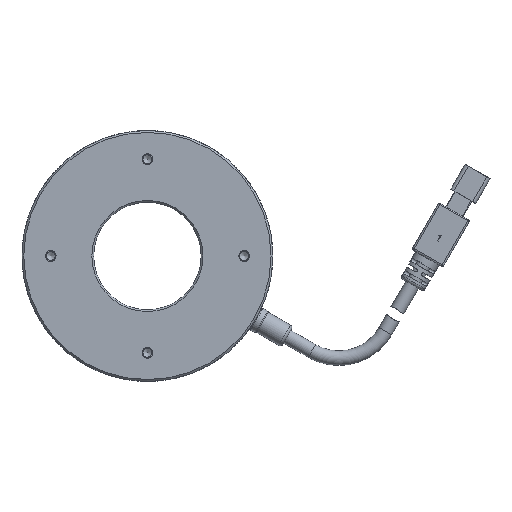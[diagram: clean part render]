
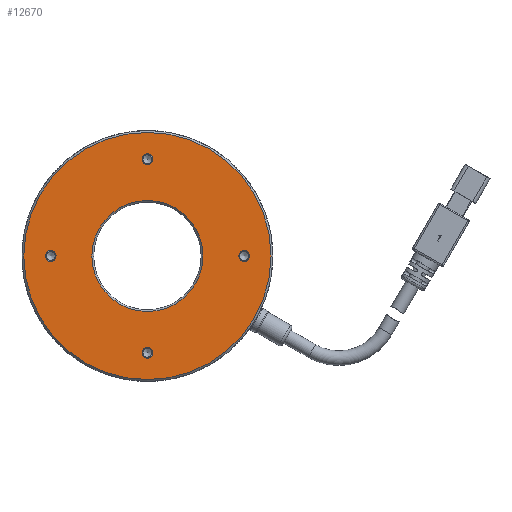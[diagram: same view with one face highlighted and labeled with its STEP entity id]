
A CAD part, front view. The second image highlights one B-rep face of the part: STEP entity #12670.
In plain terms, the highlighted planar face has unit normal (0, -1, 0).
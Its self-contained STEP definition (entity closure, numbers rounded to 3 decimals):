
#110 = FACE_BOUND ( 'NONE', #22763, .T. ) ;
#1093 = PLANE ( 'NONE',  #7536 ) ;
#1431 = DIRECTION ( 'NONE',  ( 0., 0., -1. ) ) ;
#1442 = ORIENTED_EDGE ( 'NONE', *, *, #21462, .F. ) ;
#2401 = DIRECTION ( 'NONE',  ( 0., 0., 1. ) ) ;
#2560 = DIRECTION ( 'NONE',  ( 0., -1., 0. ) ) ;
#2864 = CIRCLE ( 'NONE', #21710, 34.5 ) ;
#3384 = EDGE_LOOP ( 'NONE', ( #18166 ) ) ;
#3844 = CARTESIAN_POINT ( 'NONE',  ( 0., 37.181, 34.5 ) ) ;
#3853 = FACE_OUTER_BOUND ( 'NONE', #3384, .T. ) ;
#4115 = EDGE_CURVE ( 'NONE', #12719, #12719, #2864, .T. ) ;
#4181 = CARTESIAN_POINT ( 'NONE',  ( 0., 37.181, -27. ) ) ;
#4212 = EDGE_CURVE ( 'NONE', #11554, #11554, #23853, .T. ) ;
#4375 = EDGE_CURVE ( 'NONE', #17033, #17033, #15252, .T. ) ;
#4398 = CIRCLE ( 'NONE', #21779, 1.5 ) ;
#4408 = CARTESIAN_POINT ( 'NONE',  ( 27., 37.181, 0. ) ) ;
#5256 = ORIENTED_EDGE ( 'NONE', *, *, #4375, .F. ) ;
#5543 = EDGE_LOOP ( 'NONE', ( #20350 ) ) ;
#6012 = EDGE_LOOP ( 'NONE', ( #1442 ) ) ;
#6493 = CIRCLE ( 'NONE', #6994, 1.5 ) ;
#6994 = AXIS2_PLACEMENT_3D ( 'NONE', #4181, #9468, #16985 ) ;
#7356 = AXIS2_PLACEMENT_3D ( 'NONE', #17297, #2560, #11668 ) ;
#7401 = CARTESIAN_POINT ( 'NONE',  ( 0., 37.181, -28.5 ) ) ;
#7536 = AXIS2_PLACEMENT_3D ( 'NONE', #17518, #15695, #8329 ) ;
#7591 = FACE_BOUND ( 'NONE', #21816, .T. ) ;
#7881 = VERTEX_POINT ( 'NONE', #18335 ) ;
#8329 = DIRECTION ( 'NONE',  ( 0., 0., 1. ) ) ;
#8696 = EDGE_CURVE ( 'NONE', #7881, #7881, #4398, .T. ) ;
#9376 = CARTESIAN_POINT ( 'NONE',  ( -27., 37.181, -1.5 ) ) ;
#9468 = DIRECTION ( 'NONE',  ( 0., -1., 0. ) ) ;
#9719 = AXIS2_PLACEMENT_3D ( 'NONE', #19132, #17153, #2401 ) ;
#9871 = VERTEX_POINT ( 'NONE', #7401 ) ;
#11191 = DIRECTION ( 'NONE',  ( 0., 0., 1. ) ) ;
#11554 = VERTEX_POINT ( 'NONE', #13189 ) ;
#11659 = DIRECTION ( 'NONE',  ( 0., 0., -1. ) ) ;
#11668 = DIRECTION ( 'NONE',  ( 0., 0., -1. ) ) ;
#12147 = DIRECTION ( 'NONE',  ( 0., -1., 0. ) ) ;
#12670 = ADVANCED_FACE ( 'NONE', ( #3853, #18256, #7591, #21954, #110, #15396 ), #1093, .F. ) ;
#12719 = VERTEX_POINT ( 'NONE', #3844 ) ;
#12792 = VERTEX_POINT ( 'NONE', #13023 ) ;
#13023 = CARTESIAN_POINT ( 'NONE',  ( 0., 37.181, 25.5 ) ) ;
#13122 = EDGE_LOOP ( 'NONE', ( #21614 ) ) ;
#13189 = CARTESIAN_POINT ( 'NONE',  ( 0., 37.181, 15.5 ) ) ;
#14360 = ORIENTED_EDGE ( 'NONE', *, *, #8696, .F. ) ;
#15068 = CARTESIAN_POINT ( 'NONE',  ( 0., 37.181, 0. ) ) ;
#15252 = CIRCLE ( 'NONE', #15917, 1.5 ) ;
#15396 = FACE_BOUND ( 'NONE', #5543, .T. ) ;
#15695 = DIRECTION ( 'NONE',  ( 0., 1., 0. ) ) ;
#15917 = AXIS2_PLACEMENT_3D ( 'NONE', #23043, #12147, #1431 ) ;
#16843 = DIRECTION ( 'NONE',  ( 0., -1., 0. ) ) ;
#16985 = DIRECTION ( 'NONE',  ( 0., 0., -1. ) ) ;
#17033 = VERTEX_POINT ( 'NONE', #9376 ) ;
#17153 = DIRECTION ( 'NONE',  ( 0., 1., 0. ) ) ;
#17222 = DIRECTION ( 'NONE',  ( 0., -1., 0. ) ) ;
#17297 = CARTESIAN_POINT ( 'NONE',  ( 0., 37.181, 27. ) ) ;
#17506 = CIRCLE ( 'NONE', #7356, 1.5 ) ;
#17518 = CARTESIAN_POINT ( 'NONE',  ( 35., 37.181, 0. ) ) ;
#18166 = ORIENTED_EDGE ( 'NONE', *, *, #4115, .T. ) ;
#18256 = FACE_BOUND ( 'NONE', #13122, .T. ) ;
#18335 = CARTESIAN_POINT ( 'NONE',  ( 27., 37.181, -1.5 ) ) ;
#19132 = CARTESIAN_POINT ( 'NONE',  ( 0., 37.181, 0. ) ) ;
#19406 = EDGE_CURVE ( 'NONE', #9871, #9871, #6493, .T. ) ;
#20350 = ORIENTED_EDGE ( 'NONE', *, *, #19406, .F. ) ;
#21462 = EDGE_CURVE ( 'NONE', #12792, #12792, #17506, .T. ) ;
#21614 = ORIENTED_EDGE ( 'NONE', *, *, #4212, .T. ) ;
#21710 = AXIS2_PLACEMENT_3D ( 'NONE', #15068, #16843, #11191 ) ;
#21779 = AXIS2_PLACEMENT_3D ( 'NONE', #4408, #17222, #11659 ) ;
#21816 = EDGE_LOOP ( 'NONE', ( #14360 ) ) ;
#21954 = FACE_BOUND ( 'NONE', #6012, .T. ) ;
#22763 = EDGE_LOOP ( 'NONE', ( #5256 ) ) ;
#23043 = CARTESIAN_POINT ( 'NONE',  ( -27., 37.181, 0. ) ) ;
#23853 = CIRCLE ( 'NONE', #9719, 15.5 ) ;
